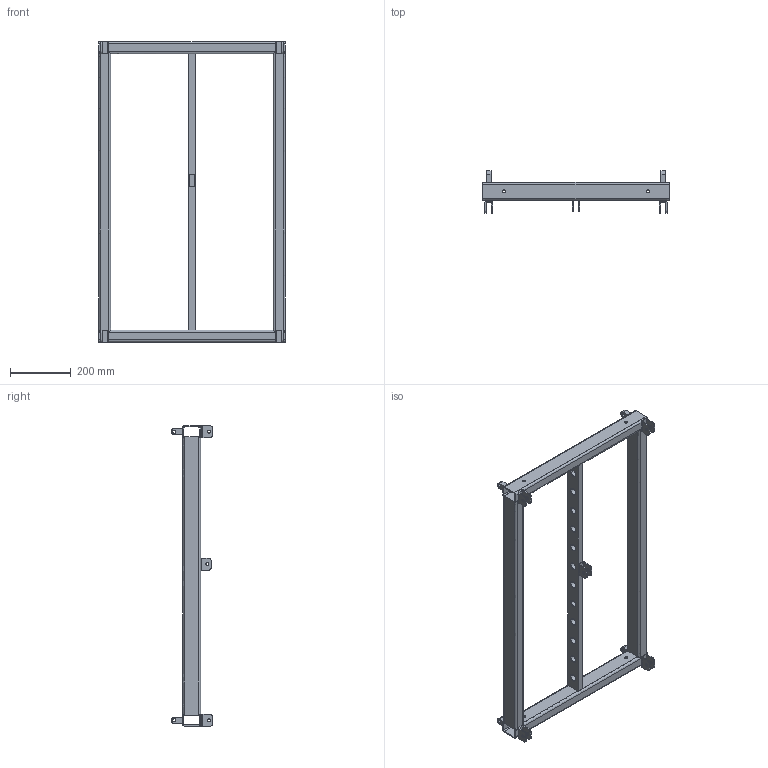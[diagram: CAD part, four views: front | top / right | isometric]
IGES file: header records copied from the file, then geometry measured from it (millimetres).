
Start section: SolidWorks IGES file using analytic representation for surfaces
Global section: file name: C:\Dokumente und Einstellungen\PC_Fabian\Desktop\Galeo_und_Co\Seeburg_Galeo-Sub-Cradle.IGS; native system: SolidWorks 2009; preprocessor: SolidWorks 2009; author: PC_Fabian; date: 121017.110143; units: millimetre
Bounding box: 615 x 137.46 x 990.6 mm (x, y, z)
Surface area: 1247015.1 mm2 (no closed solid volume)
Topology: 0 solids, 0 shells, 317 faces, 5016 edges, 5016 vertices
Faces by surface type: revolution 190, bspline 127
